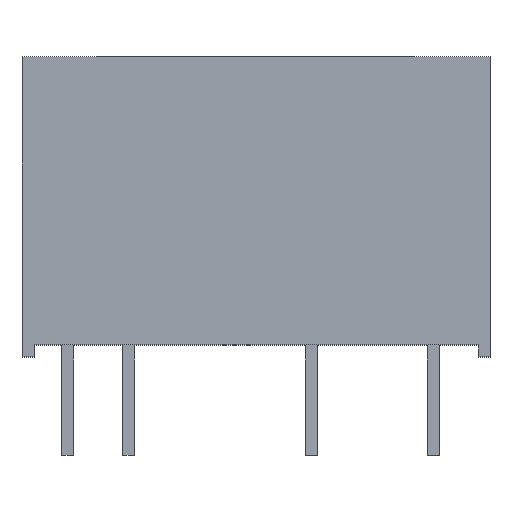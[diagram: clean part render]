
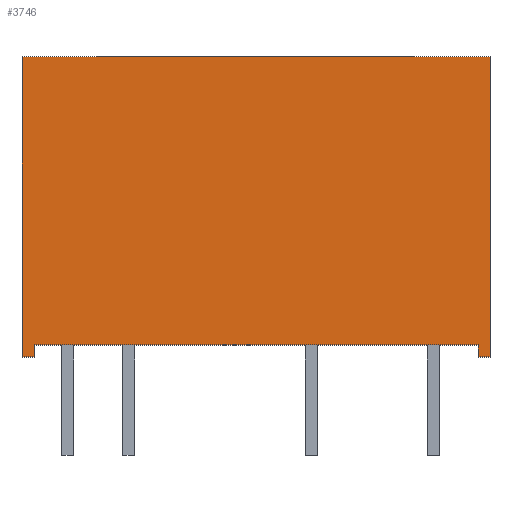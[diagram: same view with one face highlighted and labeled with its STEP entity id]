
A CAD part, top view. The second image highlights one B-rep face of the part: STEP entity #3746.
In plain terms, the highlighted planar face has unit normal (0, 0, 1).
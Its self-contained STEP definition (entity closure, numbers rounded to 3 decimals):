
#3204 = VERTEX_POINT('',#3205);
#3205 = CARTESIAN_POINT('',(-9.75,12.,4.9));
#3213 = EDGE_CURVE('',#3214,#3204,#3216,.T.);
#3214 = VERTEX_POINT('',#3215);
#3215 = CARTESIAN_POINT('',(9.75,12.,4.9));
#3216 = LINE('',#3217,#3218);
#3217 = CARTESIAN_POINT('',(0.,12.,4.9));
#3218 = VECTOR('',#3219,1.);
#3219 = DIRECTION('',(-1.,0.,0.));
#3476 = VERTEX_POINT('',#3477);
#3477 = CARTESIAN_POINT('',(9.25,0.,4.9));
#3483 = EDGE_CURVE('',#3484,#3476,#3486,.T.);
#3484 = VERTEX_POINT('',#3485);
#3485 = CARTESIAN_POINT('',(-9.25,0.,4.9));
#3486 = LINE('',#3487,#3488);
#3487 = CARTESIAN_POINT('',(0.,0.,4.9));
#3488 = VECTOR('',#3489,1.);
#3489 = DIRECTION('',(1.,0.,0.));
#3591 = EDGE_CURVE('',#3592,#3484,#3594,.T.);
#3592 = VERTEX_POINT('',#3593);
#3593 = CARTESIAN_POINT('',(-9.25,-0.5,4.9));
#3594 = LINE('',#3595,#3596);
#3595 = CARTESIAN_POINT('',(-9.25,0.,4.9));
#3596 = VECTOR('',#3597,1.);
#3597 = DIRECTION('',(0.,1.,0.));
#3619 = EDGE_CURVE('',#3620,#3592,#3622,.T.);
#3620 = VERTEX_POINT('',#3621);
#3621 = CARTESIAN_POINT('',(-9.75,-0.5,4.9));
#3622 = LINE('',#3623,#3624);
#3623 = CARTESIAN_POINT('',(-9.25,-0.5,4.9));
#3624 = VECTOR('',#3625,1.);
#3625 = DIRECTION('',(1.,0.,0.));
#3643 = EDGE_CURVE('',#3204,#3620,#3644,.T.);
#3644 = LINE('',#3645,#3646);
#3645 = CARTESIAN_POINT('',(-9.75,-0.5,4.9));
#3646 = VECTOR('',#3647,1.);
#3647 = DIRECTION('',(0.,-1.,0.));
#3682 = EDGE_CURVE('',#3683,#3214,#3685,.T.);
#3683 = VERTEX_POINT('',#3684);
#3684 = CARTESIAN_POINT('',(9.75,-0.5,4.9));
#3685 = LINE('',#3686,#3687);
#3686 = CARTESIAN_POINT('',(9.75,12.,4.9));
#3687 = VECTOR('',#3688,1.);
#3688 = DIRECTION('',(0.,1.,0.));
#3706 = EDGE_CURVE('',#3707,#3683,#3709,.T.);
#3707 = VERTEX_POINT('',#3708);
#3708 = CARTESIAN_POINT('',(9.25,-0.5,4.9));
#3709 = LINE('',#3710,#3711);
#3710 = CARTESIAN_POINT('',(9.75,-0.5,4.9));
#3711 = VECTOR('',#3712,1.);
#3712 = DIRECTION('',(1.,0.,0.));
#3730 = EDGE_CURVE('',#3476,#3707,#3731,.T.);
#3731 = LINE('',#3732,#3733);
#3732 = CARTESIAN_POINT('',(9.25,-0.5,4.9));
#3733 = VECTOR('',#3734,1.);
#3734 = DIRECTION('',(0.,-1.,0.));
#3746 = ADVANCED_FACE('',(#3747),#3757,.T.);
#3747 = FACE_BOUND('',#3748,.T.);
#3748 = EDGE_LOOP('',(#3749,#3750,#3751,#3752,#3753,#3754,#3755,#3756));
#3749 = ORIENTED_EDGE('',*,*,#3483,.T.);
#3750 = ORIENTED_EDGE('',*,*,#3730,.T.);
#3751 = ORIENTED_EDGE('',*,*,#3706,.T.);
#3752 = ORIENTED_EDGE('',*,*,#3682,.T.);
#3753 = ORIENTED_EDGE('',*,*,#3213,.T.);
#3754 = ORIENTED_EDGE('',*,*,#3643,.T.);
#3755 = ORIENTED_EDGE('',*,*,#3619,.T.);
#3756 = ORIENTED_EDGE('',*,*,#3591,.T.);
#3757 = PLANE('',#3758);
#3758 = AXIS2_PLACEMENT_3D('',#3759,#3760,#3761);
#3759 = CARTESIAN_POINT('',(0.,5.8,4.9));
#3760 = DIRECTION('',(0.,0.,1.));
#3761 = DIRECTION('',(1.,0.,-0.));
